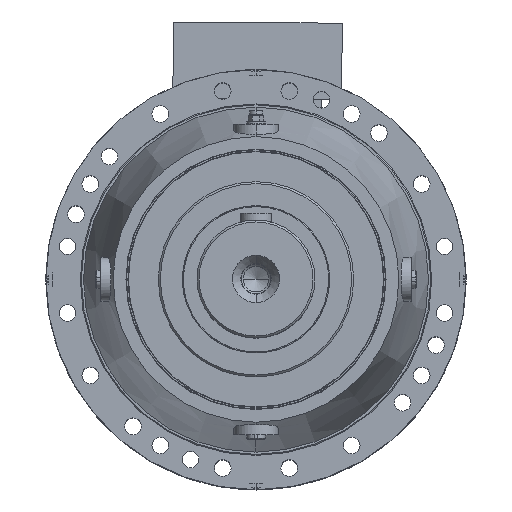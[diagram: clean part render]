
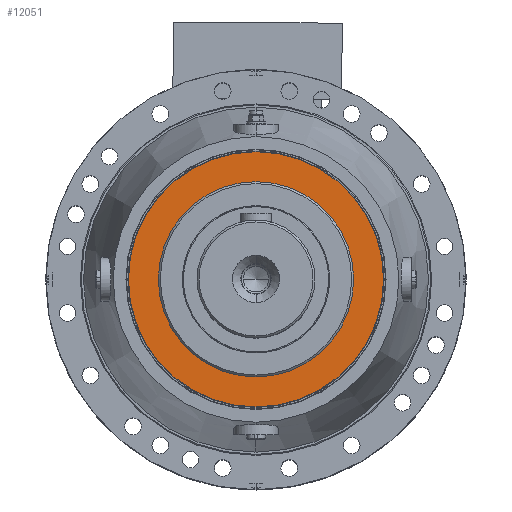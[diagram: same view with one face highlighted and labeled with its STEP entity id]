
A CAD part, top view. The second image highlights one B-rep face of the part: STEP entity #12051.
In plain terms, the highlighted planar face has unit normal (0, 0, 1).
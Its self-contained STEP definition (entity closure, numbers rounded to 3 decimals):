
#733 = VERTEX_POINT ( 'NONE', #82510 ) ;
#846 = VERTEX_POINT ( 'NONE', #82741 ) ;
#847 = VERTEX_POINT ( 'NONE', #82728 ) ;
#850 = VERTEX_POINT ( 'NONE', #82716 ) ;
#12051 = ADVANCED_FACE ( 'NONE', ( #71169, #71170 ), #93312, .F. ) ;
#23339 = ORIENTED_EDGE ( 'NONE', *, *, #43474, .F. ) ;
#23367 = ORIENTED_EDGE ( 'NONE', *, *, #43582, .F. ) ;
#23419 = ORIENTED_EDGE ( 'NONE', *, *, #43509, .F. ) ;
#23438 = ORIENTED_EDGE ( 'NONE', *, *, #43458, .F. ) ;
#28004 = AXIS2_PLACEMENT_3D ( 'NONE', #88662, #88659, #88708 ) ;
#28076 = AXIS2_PLACEMENT_3D ( 'NONE', #88748, #88750, #88653 ) ;
#28083 = AXIS2_PLACEMENT_3D ( 'NONE', #88557, #88551, #88579 ) ;
#28148 = AXIS2_PLACEMENT_3D ( 'NONE', #88895, #88942, #88950 ) ;
#37870 = AXIS2_PLACEMENT_3D ( 'NONE', #93303, #93325, #93288 ) ;
#43458 = EDGE_CURVE ( 'NONE', #847, #850, #46321, .T. ) ;
#43474 = EDGE_CURVE ( 'NONE', #733, #846, #46438, .T. ) ;
#43509 = EDGE_CURVE ( 'NONE', #846, #733, #46382, .T. ) ;
#43582 = EDGE_CURVE ( 'NONE', #850, #847, #46645, .T. ) ;
#46321 = CIRCLE ( 'NONE', #28083, 130. ) ;
#46382 = CIRCLE ( 'NONE', #28076, 99.5 ) ;
#46438 = CIRCLE ( 'NONE', #28004, 99.5 ) ;
#46645 = CIRCLE ( 'NONE', #28148, 130. ) ;
#71169 = FACE_BOUND ( 'NONE', #109480, .T. ) ;
#71170 = FACE_OUTER_BOUND ( 'NONE', #109488, .T. ) ;
#82510 = CARTESIAN_POINT ( 'NONE',  ( 0., -99.5, 203. ) ) ;
#82716 = CARTESIAN_POINT ( 'NONE',  ( 0., -130., 203. ) ) ;
#82728 = CARTESIAN_POINT ( 'NONE',  ( 0., 130., 203. ) ) ;
#82741 = CARTESIAN_POINT ( 'NONE',  ( 0., 99.5, 203. ) ) ;
#88551 = DIRECTION ( 'NONE',  ( 0., 0., -1. ) ) ;
#88557 = CARTESIAN_POINT ( 'NONE',  ( 0., 0., 203. ) ) ;
#88579 = DIRECTION ( 'NONE',  ( 0., 1., 0. ) ) ;
#88653 = DIRECTION ( 'NONE',  ( 0., 1., 0. ) ) ;
#88659 = DIRECTION ( 'NONE',  ( 0., 0., 1. ) ) ;
#88662 = CARTESIAN_POINT ( 'NONE',  ( 0., 0., 203. ) ) ;
#88708 = DIRECTION ( 'NONE',  ( 0., 1., 0. ) ) ;
#88748 = CARTESIAN_POINT ( 'NONE',  ( 0., 0., 203. ) ) ;
#88750 = DIRECTION ( 'NONE',  ( 0., 0., 1. ) ) ;
#88895 = CARTESIAN_POINT ( 'NONE',  ( 0., 0., 203. ) ) ;
#88942 = DIRECTION ( 'NONE',  ( 0., 0., -1. ) ) ;
#88950 = DIRECTION ( 'NONE',  ( 0., 1., 0. ) ) ;
#93288 = DIRECTION ( 'NONE',  ( 0., 1., 0. ) ) ;
#93303 = CARTESIAN_POINT ( 'NONE',  ( 0., 130., 203. ) ) ;
#93312 = PLANE ( 'NONE',  #37870 ) ;
#93325 = DIRECTION ( 'NONE',  ( 0., 0., -1. ) ) ;
#109480 = EDGE_LOOP ( 'NONE', ( #23419, #23339 ) ) ;
#109488 = EDGE_LOOP ( 'NONE', ( #23438, #23367 ) ) ;
